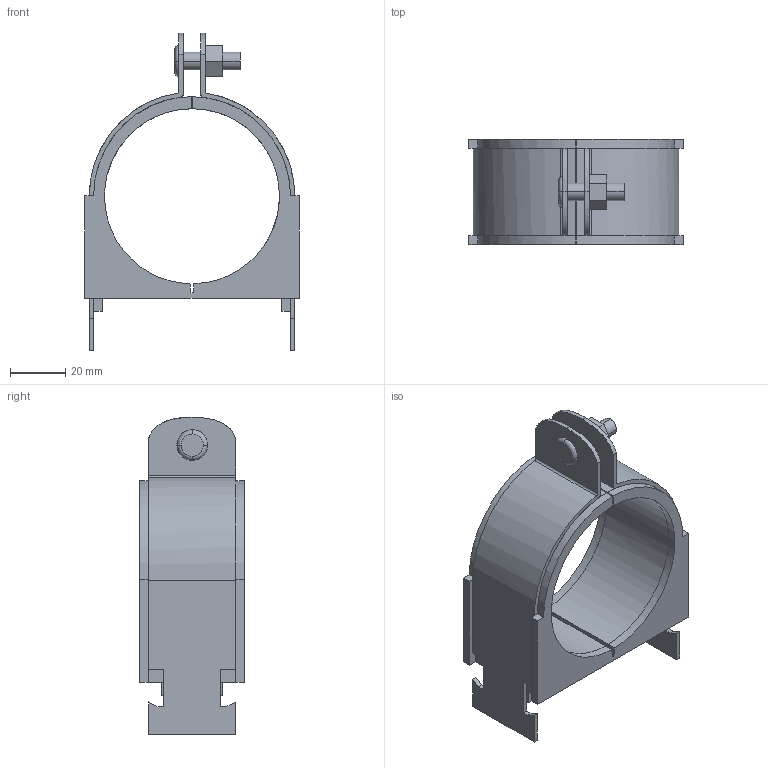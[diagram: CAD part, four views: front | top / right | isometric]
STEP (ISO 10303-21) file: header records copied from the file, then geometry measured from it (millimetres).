
FILE_DESCRIPTION(('TurboCAD Mac Pro'),'Build 980');
FILE_NAME('040N046.stp',' ',(''),(''),'ACIS Interop','IMSI','TurboCAD Mac Pro BY IMSI, INCORPORATED');
FILE_SCHEMA(('automotive_design'));
Length unit declared in the file: inch
Products named in the file (3): 1; 2; 3
Bounding box: 77.85 x 38.1 x 115.32 mm (x, y, z)
Volume: 73331.7 mm3; surface area: 40045.7 mm2
Topology: 3 solids, 3 shells, 150 faces, 396 edges, 256 vertices
Faces by surface type: plane 104, bspline 46
Entity records: 7236 total; most frequent: CARTESIAN_POINT 1777, ORIENTED_EDGE 792, DIRECTION 504, EDGE_CURVE 396, STYLED_ITEM 321, PRESENTATION_STYLE_ASSIGNMENT 321, COLOUR_RGB 321, LINE 282
